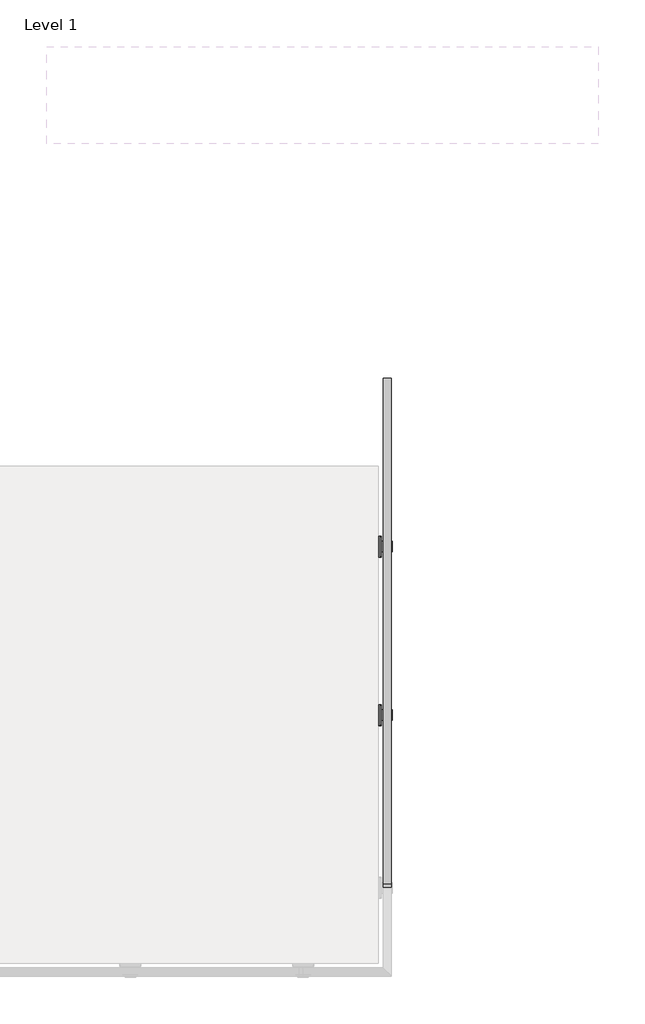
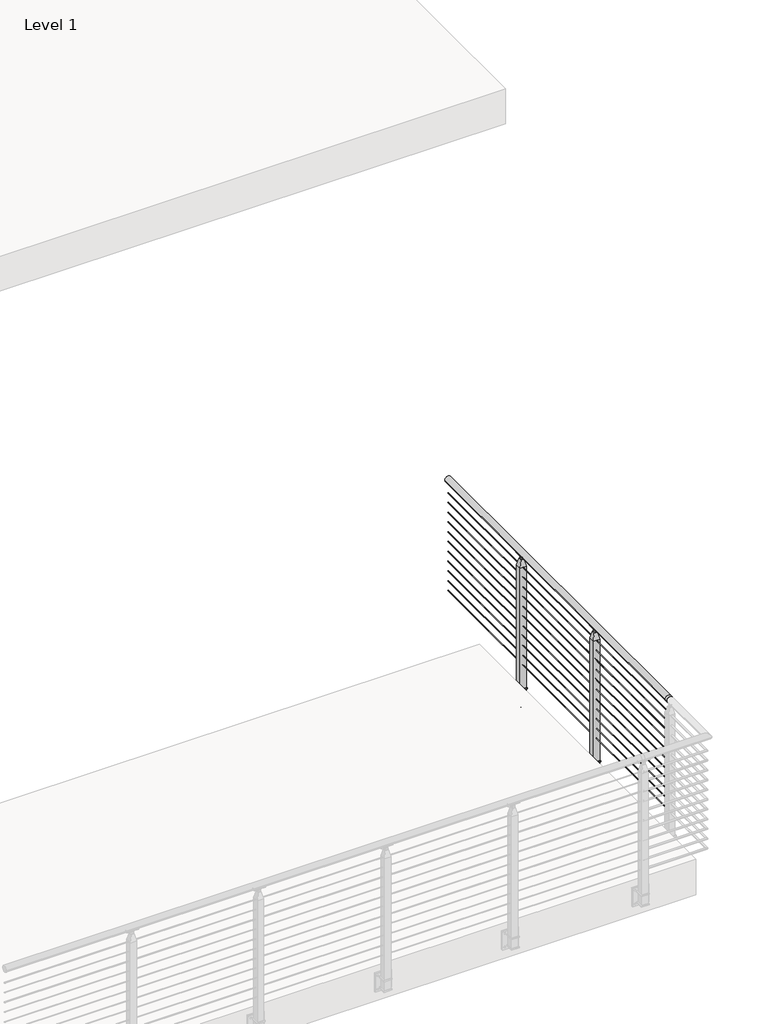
# One storey, part 5 of 26: 1 railing.
"""IFC4 building model written with IfcOpenShell, lengths in millimetres."""

from ifc_helpers import new_model, si_unit, point, frame, frame_2d, origin, place, context, project, spatial, polyline, circle_curve, trimmed, segment, composite_curve, outline, extrude, faceted_brep, element, save
from ifc_brep_helpers import plane_surface, cylinder_surface, advanced_brep

model = new_model("IFC4")

# Units and contexts
model_context = context("Model", 3, world=origin())
ifc_project = project(units=[si_unit("LENGTHUNIT", "METRE", prefix="MILLI")], contexts=[model_context])

# Site, building, storey
site = spatial("IfcSite", under=ifc_project)
building = spatial("IfcBuilding", under=site)
storey = spatial("IfcBuildingStorey", under=building, Name="Level 1", Elevation=0.0)

# Railing
placement = place(None, origin())
element("IfcRailing", 1, ObjectType="VIVA-CUBE-Cable-Fascia Mount-Straight", at=placement, inside=storey, context=model_context, shape_type="SolidModel", body=[
    advanced_brep(
    [(-4853.4752117, -53657.1496325, 1054.1), (-4904.2752117, -53657.1496325, 1054.1), (-4904.2752117, -56705.1496325, 1054.1), (-4853.4752117, -56705.1496325, 1054.1), (-4853.4752117, -56730.9465075, 1054.1), (-4904.2752117, -56730.9465075, 1054.1)],
    [
        (0, 1, circle_curve(frame((-4878.8752117, -53657.1496325, 1054.1), z_axis=(0.0, 1.0, 0.0), x_axis=(-1.0, 0.0, 0.0)), 25.4)),
        (1, 0, circle_curve(frame((-4878.8752117, -53657.1496325, 1054.1), z_axis=(0.0, 1.0, 0.0), x_axis=(-1.0, 0.0, 0.0)), 25.4)),
        (2, 3, circle_curve(frame((-4878.8752117, -56705.1496325, 1054.1), z_axis=(0.0, 1.0, 0.0), x_axis=(-1.0, 0.0, 0.0)), 25.4)),
        (3, 0),
        (1, 2),
        (3, 2, circle_curve(frame((-4878.8752117, -56705.1496325, 1054.1), z_axis=(0.0, 1.0, 0.0), x_axis=(-1.0, 0.0, 0.0)), 25.4)),
        (4, 5, circle_curve(frame((-4878.8752117, -56730.9465075, 1054.1), z_axis=(0.0, -1.0, 0.0), x_axis=(-1.0, 0.0, 0.0)), 25.4)),
        (5, 4, circle_curve(frame((-4878.8752117, -56730.9465075, 1054.1), z_axis=(0.0, -1.0, 0.0), x_axis=(-1.0, 0.0, 0.0)), 25.4)),
        (4, 3),
        (2, 5),
    ],
    [
        plane_surface(frame((-4878.8752117, -53657.1496325, 1079.5), z_axis=(0.0, 1.0, 0.0), x_axis=(0.0, 0.0, 1.0))),
        cylinder_surface(frame((-4878.8752117, -56705.1496325, 1054.1), z_axis=(0.0, -1.0, 0.0), x_axis=(-1.0, 0.0, 0.0)), 25.4),
        plane_surface(frame((-4878.8752117, -56730.9465075, 1079.5), z_axis=(0.0, -1.0, 0.0), x_axis=(0.0, 0.0, 1.0))),
        cylinder_surface(frame((-4878.8752117, -56730.9465075, 1054.1), z_axis=(0.0, -1.0, 0.0), x_axis=(-1.0, 0.0, 0.0)), 25.4),
    ],
    [
        (0, [[1, 2]]),
        (1, [[3, 4, -2, 5]]),
        (1, [[6, -5, -1, -4]]),
        (2, [[7, 8]]),
        (3, [[-7, 9, -3, 10]]),
        (3, [[-8, -10, -6, -9]]),
    ],
),
    extrude(outline(composite_curve([segment(trimmed(circle_curve(frame_2d((937.4124, -4878.8752117)), 2.3876), [point((937.4124, -4881.2628117))], [point((937.4124, -4876.4876117))], False, "CARTESIAN"), True, "CONTINUOUS"), segment(trimmed(circle_curve(frame_2d((937.4124, -4878.8752117)), 2.3876), [point((937.4124, -4876.4876117))], [point((937.4124, -4881.2628117))], False, "CARTESIAN"), True, "CONTINUOUS")], self_intersect=False)), frame((0.0, -56705.1496325, 0.0), z_axis=(0.0, 1.0, 0.0), x_axis=(0.0, 0.0, 1.0)), (0.0, 0.0, 1.0), 3048.0),
    extrude(outline(composite_curve([segment(trimmed(circle_curve(frame_2d((854.8624, -4878.8752117)), 2.3876), [point((854.8624, -4881.2628117))], [point((854.8624, -4876.4876117))], False, "CARTESIAN"), True, "CONTINUOUS"), segment(trimmed(circle_curve(frame_2d((854.8624, -4878.8752117)), 2.3876), [point((854.8624, -4876.4876117))], [point((854.8624, -4881.2628117))], False, "CARTESIAN"), True, "CONTINUOUS")], self_intersect=False)), frame((0.0, -56705.1496325, 0.0), z_axis=(0.0, 1.0, 0.0), x_axis=(0.0, 0.0, 1.0)), (0.0, 0.0, 1.0), 3048.0),
    extrude(outline(composite_curve([segment(trimmed(circle_curve(frame_2d((772.3124, -4878.8752117)), 2.3876), [point((772.3124, -4881.2628117))], [point((772.3124, -4876.4876117))], False, "CARTESIAN"), True, "CONTINUOUS"), segment(trimmed(circle_curve(frame_2d((772.3124, -4878.8752117)), 2.3876), [point((772.3124, -4876.4876117))], [point((772.3124, -4881.2628117))], False, "CARTESIAN"), True, "CONTINUOUS")], self_intersect=False)), frame((0.0, -56705.1496325, 0.0), z_axis=(0.0, 1.0, 0.0), x_axis=(0.0, 0.0, 1.0)), (0.0, 0.0, 1.0), 3048.0),
    extrude(outline(composite_curve([segment(trimmed(circle_curve(frame_2d((689.7624, -4878.8752117)), 2.3876), [point((689.7624, -4881.2628117))], [point((689.7624, -4876.4876117))], False, "CARTESIAN"), True, "CONTINUOUS"), segment(trimmed(circle_curve(frame_2d((689.7624, -4878.8752117)), 2.3876), [point((689.7624, -4876.4876117))], [point((689.7624, -4881.2628117))], False, "CARTESIAN"), True, "CONTINUOUS")], self_intersect=False)), frame((0.0, -56705.1496325, 0.0), z_axis=(0.0, 1.0, 0.0), x_axis=(0.0, 0.0, 1.0)), (0.0, 0.0, 1.0), 3048.0),
    extrude(outline(composite_curve([segment(trimmed(circle_curve(frame_2d((607.2124, -4878.8752117)), 2.3876), [point((607.2124, -4881.2628117))], [point((607.2124, -4876.4876117))], False, "CARTESIAN"), True, "CONTINUOUS"), segment(trimmed(circle_curve(frame_2d((607.2124, -4878.8752117)), 2.3876), [point((607.2124, -4876.4876117))], [point((607.2124, -4881.2628117))], False, "CARTESIAN"), True, "CONTINUOUS")], self_intersect=False)), frame((0.0, -56705.1496325, 0.0), z_axis=(0.0, 1.0, 0.0), x_axis=(0.0, 0.0, 1.0)), (0.0, 0.0, 1.0), 3048.0),
    extrude(outline(composite_curve([segment(trimmed(circle_curve(frame_2d((524.6624, -4878.8752117)), 2.3876), [point((524.6624, -4881.2628117))], [point((524.6624, -4876.4876117))], False, "CARTESIAN"), True, "CONTINUOUS"), segment(trimmed(circle_curve(frame_2d((524.6624, -4878.8752117)), 2.3876), [point((524.6624, -4876.4876117))], [point((524.6624, -4881.2628117))], False, "CARTESIAN"), True, "CONTINUOUS")], self_intersect=False)), frame((0.0, -56705.1496325, 0.0), z_axis=(0.0, 1.0, 0.0), x_axis=(0.0, 0.0, 1.0)), (0.0, 0.0, 1.0), 3048.0),
    extrude(outline(composite_curve([segment(trimmed(circle_curve(frame_2d((442.1124, -4878.8752117)), 2.3876), [point((442.1124, -4881.2628117))], [point((442.1124, -4876.4876117))], False, "CARTESIAN"), True, "CONTINUOUS"), segment(trimmed(circle_curve(frame_2d((442.1124, -4878.8752117)), 2.3876), [point((442.1124, -4876.4876117))], [point((442.1124, -4881.2628117))], False, "CARTESIAN"), True, "CONTINUOUS")], self_intersect=False)), frame((0.0, -56705.1496325, 0.0), z_axis=(0.0, 1.0, 0.0), x_axis=(0.0, 0.0, 1.0)), (0.0, 0.0, 1.0), 3048.0),
    extrude(outline(composite_curve([segment(trimmed(circle_curve(frame_2d((359.5624, -4878.8752117)), 2.3876), [point((359.5624, -4881.2628117))], [point((359.5624, -4876.4876117))], False, "CARTESIAN"), True, "CONTINUOUS"), segment(trimmed(circle_curve(frame_2d((359.5624, -4878.8752117)), 2.3876), [point((359.5624, -4876.4876117))], [point((359.5624, -4881.2628117))], False, "CARTESIAN"), True, "CONTINUOUS")], self_intersect=False)), frame((0.0, -56705.1496325, 0.0), z_axis=(0.0, 1.0, 0.0), x_axis=(0.0, 0.0, 1.0)), (0.0, 0.0, 1.0), 3048.0),
    extrude(outline(composite_curve([segment(trimmed(circle_curve(frame_2d((277.0124, -4878.8752117)), 2.3876), [point((277.0124, -4881.2628117))], [point((277.0124, -4876.4876117))], False, "CARTESIAN"), True, "CONTINUOUS"), segment(trimmed(circle_curve(frame_2d((277.0124, -4878.8752117)), 2.3876), [point((277.0124, -4876.4876117))], [point((277.0124, -4881.2628117))], False, "CARTESIAN"), True, "CONTINUOUS")], self_intersect=False)), frame((0.0, -56705.1496325, 0.0), z_axis=(0.0, 1.0, 0.0), x_axis=(0.0, 0.0, 1.0)), (0.0, 0.0, 1.0), 3048.0),
    extrude(outline(composite_curve([segment(trimmed(circle_curve(frame_2d((194.4624, -4878.8752117)), 2.3876), [point((194.4624, -4881.2628117))], [point((194.4624, -4876.4876117))], False, "CARTESIAN"), True, "CONTINUOUS"), segment(trimmed(circle_curve(frame_2d((194.4624, -4878.8752117)), 2.3876), [point((194.4624, -4876.4876117))], [point((194.4624, -4881.2628117))], False, "CARTESIAN"), True, "CONTINUOUS")], self_intersect=False)), frame((0.0, -56705.1496325, 0.0), z_axis=(0.0, 1.0, 0.0), x_axis=(0.0, 0.0, 1.0)), (0.0, 0.0, 1.0), 3048.0),
    extrude(outline(composite_curve([segment(trimmed(circle_curve(frame_2d((111.9124, -4878.8752117)), 2.3876), [point((111.9124, -4881.2628117))], [point((111.9124, -4876.4876117))], False, "CARTESIAN"), True, "CONTINUOUS"), segment(trimmed(circle_curve(frame_2d((111.9124, -4878.8752117)), 2.3876), [point((111.9124, -4876.4876117))], [point((111.9124, -4881.2628117))], False, "CARTESIAN"), True, "CONTINUOUS")], self_intersect=False)), frame((0.0, -56705.1496325, 0.0), z_axis=(0.0, 1.0, 0.0), x_axis=(0.0, 0.0, 1.0)), (0.0, 0.0, 1.0), 3048.0),
    extrude(outline(polyline([(-4933.3882474, -54609.2527575), (-4923.4060474, -54609.2527575), (-4923.4060474, -54736.2527575), (-4933.3882474, -54736.2527575), (-4933.3882474, -54609.2527575)])), frame((0.0, 0.0, -209.55), z_axis=(0.0, 0.0, 1.0), x_axis=(1.0, 0.0, 0.0)), (0.0, 0.0, 1.0), 152.4),
    extrude(outline(composite_curve([segment(trimmed(circle_curve(frame_2d((-54611.7927575, -59.69)), 2.54), [point((-54611.7927575, -57.15))], [point((-54609.2527575, -59.69))], False, "CARTESIAN"), True, "CONTINUOUS"), segment(polyline([(-54609.2527575, -59.69), (-54609.2527575, -207.01)]), True, "CONTINUOUS"), segment(trimmed(circle_curve(frame_2d((-54611.7927575, -207.01)), 2.54), [point((-54609.2527575, -207.01))], [point((-54611.7927575, -209.55))], False, "CARTESIAN"), True, "CONTINUOUS"), segment(polyline([(-54611.7927575, -209.55), (-54733.7127575, -209.55)]), True, "CONTINUOUS"), segment(trimmed(circle_curve(frame_2d((-54733.7127575, -207.01)), 2.54), [point((-54733.7127575, -209.55))], [point((-54736.2527575, -207.01))], False, "CARTESIAN"), True, "CONTINUOUS"), segment(polyline([(-54736.2527575, -207.01), (-54736.2527575, -59.69)]), True, "CONTINUOUS"), segment(trimmed(circle_curve(frame_2d((-54733.7127575, -59.69)), 2.54), [point((-54736.2527575, -59.69))], [point((-54733.7127575, -57.15))], False, "CARTESIAN"), True, "CONTINUOUS"), segment(polyline([(-54733.7127575, -57.15), (-54611.7927575, -57.15)]), True, "CONTINUOUS")], self_intersect=False), holes=[composite_curve([segment(trimmed(circle_curve(frame_2d((-54717.2027575, -76.2)), 5.55625), [point((-54711.6465075, -76.2))], [point((-54722.7590075, -76.2))], True, "CARTESIAN"), True, "CONTINUOUS"), segment(trimmed(circle_curve(frame_2d((-54717.2027575, -76.2)), 5.55625), [point((-54722.7590075, -76.2))], [point((-54711.6465075, -76.2))], True, "CARTESIAN"), True, "CONTINUOUS")], self_intersect=False), composite_curve([segment(trimmed(circle_curve(frame_2d((-54628.3027575, -76.2)), 5.55625), [point((-54622.7465075, -76.2))], [point((-54633.8590075, -76.2))], True, "CARTESIAN"), True, "CONTINUOUS"), segment(trimmed(circle_curve(frame_2d((-54628.3027575, -76.2)), 5.55625), [point((-54633.8590075, -76.2))], [point((-54622.7465075, -76.2))], True, "CARTESIAN"), True, "CONTINUOUS")], self_intersect=False), composite_curve([segment(trimmed(circle_curve(frame_2d((-54628.3027575, -190.5)), 5.55625), [point((-54622.7465075, -190.5))], [point((-54633.8590075, -190.5))], True, "CARTESIAN"), True, "CONTINUOUS"), segment(trimmed(circle_curve(frame_2d((-54628.3027575, -190.5)), 5.55625), [point((-54633.8590075, -190.5))], [point((-54622.7465075, -190.5))], True, "CARTESIAN"), True, "CONTINUOUS")], self_intersect=False), composite_curve([segment(trimmed(circle_curve(frame_2d((-54717.2027575, -190.5)), 5.55625), [point((-54711.6465075, -190.5))], [point((-54722.7590075, -190.5))], True, "CARTESIAN"), True, "CONTINUOUS"), segment(trimmed(circle_curve(frame_2d((-54717.2027575, -190.5)), 5.55625), [point((-54722.7590075, -190.5))], [point((-54711.6465075, -190.5))], True, "CARTESIAN"), True, "CONTINUOUS")], self_intersect=False)]), frame((-4923.4060474, 0.0, 0.0), z_axis=(1.0, 0.0, 0.0), x_axis=(0.0, 1.0, 0.0)), (0.0, 0.0, 1.0), 9.9822),
    extrude(outline(polyline([(-4923.4060474, -54704.5027575), (-4923.4060474, -54641.0027575), (-4847.1252117, -54641.0027575), (-4847.1252117, -54704.5027575), (-4923.4060474, -54704.5027575)])), frame((0.0, 0.0, -182.5625), z_axis=(0.0, 0.0, 1.0), x_axis=(1.0, 0.0, 0.0)), (0.0, 0.0, 1.0), 9.5123),
    extrude(outline(polyline([(-4923.4060474, -54704.5027575), (-4923.4060474, -54641.0027575), (-4847.1252117, -54641.0027575), (-4847.1252117, -54704.5027575), (-4923.4060474, -54704.5027575)])), frame((0.0, 0.0, -93.6625), z_axis=(0.0, 0.0, 1.0), x_axis=(1.0, 0.0, 0.0)), (0.0, 0.0, 1.0), 9.525),
    faceted_brep([(-4891.5752117, -54660.0527575, 997.2902749), (-4891.5752117, -54685.4527575, 997.2902749), (-4882.8439617, -54685.4527575, 997.2902749), (-4882.8439617, -54660.0527575, 997.2902749), (-4866.1752117, -54685.4527575, 997.2902749), (-4866.1752117, -54660.0527575, 997.2902749), (-4874.9064617, -54660.0527575, 997.2902749), (-4874.9064617, -54685.4527575, 997.2902749), (-4904.2752117, -54647.3527575, 941.1347854), (-4853.4752117, -54647.3527575, 941.1347854), (-4904.2752117, -54698.1527575, 941.1347854), (-4853.4752117, -54698.1527575, 941.1347854), (-4904.2752117, -54647.3527575, -173.0502), (-4853.4752117, -54647.3527575, -173.0502), (-4853.4752117, -54698.1527575, -173.0502), (-4904.2752117, -54698.1527575, -173.0502), (-4874.9064617, -54685.4527575, 1009.3306013), (-4874.9064617, -54660.0527575, 1009.3306013), (-4882.8439617, -54660.0527575, 1009.3306013), (-4882.8439617, -54685.4527575, 1009.3306013)], [[[0, 1, 2, 3]], [[4, 5, 6, 7]], [[8, 0, 3, 6, 5, 9]], [[1, 0, 8, 10]], [[1, 10, 11, 4, 7, 2]], [[5, 4, 11, 9]], [[12, 13, 14, 15]], [[12, 15, 10, 8]], [[15, 14, 11, 10]], [[14, 13, 9, 11]], [[13, 12, 8, 9]], [[16, 17, 18, 19]], [[17, 16, 7, 6]], [[18, 17, 6, 3]], [[19, 18, 3, 2]], [[16, 19, 2, 7]]]),
    extrude(outline(composite_curve([segment(trimmed(circle_curve(frame_2d((1054.1433184, -4878.9719401)), 25.4345159), [point((1032.0284941, -4866.4081372))], [point((1031.9335733, -4891.3671739))], True, "CARTESIAN"), True, "CONTINUOUS"), segment(trimmed(circle_curve(frame_2d((1029.4310885, -4892.611827)), 2.7949225), [point((1031.9335733, -4891.3671739))], [point((1027.0585031, -4894.089132))], False, "CARTESIAN"), True, "CONTINUOUS"), segment(trimmed(circle_curve(frame_2d((1054.905945, -4878.838477)), 31.75), [point((1027.0585031, -4894.089132))], [point((1027.6392616, -4862.5722398))], False, "CARTESIAN"), True, "CONTINUOUS"), segment(trimmed(circle_curve(frame_2d((1029.5101807, -4864.8605795)), 2.9558141), [point((1027.6392616, -4862.5722398))], [point((1032.0284941, -4866.4081372))], False, "CARTESIAN"), True, "CONTINUOUS")], self_intersect=False)), frame((0.0, -54717.9901575, 0.0), z_axis=(0.0, 1.0, 0.0), x_axis=(0.0, 0.0, 1.0)), (0.0, 0.0, 1.0), 90.4748),
    extrude(outline(composite_curve([segment(trimmed(circle_curve(frame_2d((-54645.6848426, 1009.0006022)), 14.3679149), [point((-54645.6848426, 1023.3685171))], [point((-54660.0527575, 1009.0006022))], True, "CARTESIAN"), True, "CONTINUOUS"), segment(trimmed(circle_curve(frame_2d((-54672.7527575, 1009.0006022)), 12.7), [point((-54660.0527575, 1009.0006022))], [point((-54685.4527575, 1009.0006022))], False, "CARTESIAN"), True, "CONTINUOUS"), segment(trimmed(circle_curve(frame_2d((-54699.8206723, 1009.0006022)), 14.3679149), [point((-54685.4527575, 1009.0006022))], [point((-54699.8206723, 1023.3685171))], True, "CARTESIAN"), True, "CONTINUOUS"), segment(polyline([(-54699.8206723, 1023.3685171), (-54645.6848426, 1023.3685171)]), True, "CONTINUOUS")], self_intersect=False)), frame((-4881.4152117, 0.0, 0.0), z_axis=(1.0, 0.0, 0.0), x_axis=(0.0, 1.0, 0.0)), (0.0, 0.0, 1.0), 5.08),
    extrude(outline(polyline([(-4933.3882474, -55625.2527575), (-4923.4060474, -55625.2527575), (-4923.4060474, -55752.2527575), (-4933.3882474, -55752.2527575), (-4933.3882474, -55625.2527575)])), frame((0.0, 0.0, -209.55), z_axis=(0.0, 0.0, 1.0), x_axis=(1.0, 0.0, 0.0)), (0.0, 0.0, 1.0), 152.4),
    extrude(outline(composite_curve([segment(trimmed(circle_curve(frame_2d((-55627.7927575, -59.69)), 2.54), [point((-55627.7927575, -57.15))], [point((-55625.2527575, -59.69))], False, "CARTESIAN"), True, "CONTINUOUS"), segment(polyline([(-55625.2527575, -59.69), (-55625.2527575, -207.01)]), True, "CONTINUOUS"), segment(trimmed(circle_curve(frame_2d((-55627.7927575, -207.01)), 2.54), [point((-55625.2527575, -207.01))], [point((-55627.7927575, -209.55))], False, "CARTESIAN"), True, "CONTINUOUS"), segment(polyline([(-55627.7927575, -209.55), (-55749.7127575, -209.55)]), True, "CONTINUOUS"), segment(trimmed(circle_curve(frame_2d((-55749.7127575, -207.01)), 2.54), [point((-55749.7127575, -209.55))], [point((-55752.2527575, -207.01))], False, "CARTESIAN"), True, "CONTINUOUS"), segment(polyline([(-55752.2527575, -207.01), (-55752.2527575, -59.69)]), True, "CONTINUOUS"), segment(trimmed(circle_curve(frame_2d((-55749.7127575, -59.69)), 2.54), [point((-55752.2527575, -59.69))], [point((-55749.7127575, -57.15))], False, "CARTESIAN"), True, "CONTINUOUS"), segment(polyline([(-55749.7127575, -57.15), (-55627.7927575, -57.15)]), True, "CONTINUOUS")], self_intersect=False), holes=[composite_curve([segment(trimmed(circle_curve(frame_2d((-55733.2027575, -76.2)), 5.55625), [point((-55727.6465075, -76.2))], [point((-55738.7590075, -76.2))], True, "CARTESIAN"), True, "CONTINUOUS"), segment(trimmed(circle_curve(frame_2d((-55733.2027575, -76.2)), 5.55625), [point((-55738.7590075, -76.2))], [point((-55727.6465075, -76.2))], True, "CARTESIAN"), True, "CONTINUOUS")], self_intersect=False), composite_curve([segment(trimmed(circle_curve(frame_2d((-55644.3027575, -76.2)), 5.55625), [point((-55638.7465075, -76.2))], [point((-55649.8590075, -76.2))], True, "CARTESIAN"), True, "CONTINUOUS"), segment(trimmed(circle_curve(frame_2d((-55644.3027575, -76.2)), 5.55625), [point((-55649.8590075, -76.2))], [point((-55638.7465075, -76.2))], True, "CARTESIAN"), True, "CONTINUOUS")], self_intersect=False), composite_curve([segment(trimmed(circle_curve(frame_2d((-55644.3027575, -190.5)), 5.55625), [point((-55638.7465075, -190.5))], [point((-55649.8590075, -190.5))], True, "CARTESIAN"), True, "CONTINUOUS"), segment(trimmed(circle_curve(frame_2d((-55644.3027575, -190.5)), 5.55625), [point((-55649.8590075, -190.5))], [point((-55638.7465075, -190.5))], True, "CARTESIAN"), True, "CONTINUOUS")], self_intersect=False), composite_curve([segment(trimmed(circle_curve(frame_2d((-55733.2027575, -190.5)), 5.55625), [point((-55727.6465075, -190.5))], [point((-55738.7590075, -190.5))], True, "CARTESIAN"), True, "CONTINUOUS"), segment(trimmed(circle_curve(frame_2d((-55733.2027575, -190.5)), 5.55625), [point((-55738.7590075, -190.5))], [point((-55727.6465075, -190.5))], True, "CARTESIAN"), True, "CONTINUOUS")], self_intersect=False)]), frame((-4923.4060474, 0.0, 0.0), z_axis=(1.0, 0.0, 0.0), x_axis=(0.0, 1.0, 0.0)), (0.0, 0.0, 1.0), 9.9822),
    extrude(outline(polyline([(-4923.4060474, -55720.5027575), (-4923.4060474, -55657.0027575), (-4847.1252117, -55657.0027575), (-4847.1252117, -55720.5027575), (-4923.4060474, -55720.5027575)])), frame((0.0, 0.0, -182.5625), z_axis=(0.0, 0.0, 1.0), x_axis=(1.0, 0.0, 0.0)), (0.0, 0.0, 1.0), 9.5123),
    extrude(outline(polyline([(-4923.4060474, -55720.5027575), (-4923.4060474, -55657.0027575), (-4847.1252117, -55657.0027575), (-4847.1252117, -55720.5027575), (-4923.4060474, -55720.5027575)])), frame((0.0, 0.0, -93.6625), z_axis=(0.0, 0.0, 1.0), x_axis=(1.0, 0.0, 0.0)), (0.0, 0.0, 1.0), 9.525),
    faceted_brep([(-4891.5752117, -55676.0527575, 997.2902749), (-4891.5752117, -55701.4527575, 997.2902749), (-4882.8439617, -55701.4527575, 997.2902749), (-4882.8439617, -55676.0527575, 997.2902749), (-4866.1752117, -55701.4527575, 997.2902749), (-4866.1752117, -55676.0527575, 997.2902749), (-4874.9064617, -55676.0527575, 997.2902749), (-4874.9064617, -55701.4527575, 997.2902749), (-4904.2752117, -55663.3527575, 941.1347854), (-4853.4752117, -55663.3527575, 941.1347854), (-4904.2752117, -55714.1527575, 941.1347854), (-4853.4752117, -55714.1527575, 941.1347854), (-4904.2752117, -55663.3527575, -173.0502), (-4853.4752117, -55663.3527575, -173.0502), (-4853.4752117, -55714.1527575, -173.0502), (-4904.2752117, -55714.1527575, -173.0502), (-4874.9064617, -55701.4527575, 1009.3306013), (-4874.9064617, -55676.0527575, 1009.3306013), (-4882.8439617, -55676.0527575, 1009.3306013), (-4882.8439617, -55701.4527575, 1009.3306013)], [[[0, 1, 2, 3]], [[4, 5, 6, 7]], [[8, 0, 3, 6, 5, 9]], [[1, 0, 8, 10]], [[1, 10, 11, 4, 7, 2]], [[5, 4, 11, 9]], [[12, 13, 14, 15]], [[12, 15, 10, 8]], [[15, 14, 11, 10]], [[14, 13, 9, 11]], [[13, 12, 8, 9]], [[16, 17, 18, 19]], [[17, 16, 7, 6]], [[18, 17, 6, 3]], [[19, 18, 3, 2]], [[16, 19, 2, 7]]]),
    extrude(outline(composite_curve([segment(trimmed(circle_curve(frame_2d((1054.1433184, -4878.9719401)), 25.4345159), [point((1032.0284941, -4866.4081372))], [point((1031.9335733, -4891.3671739))], True, "CARTESIAN"), True, "CONTINUOUS"), segment(trimmed(circle_curve(frame_2d((1029.4310885, -4892.611827)), 2.7949225), [point((1031.9335733, -4891.3671739))], [point((1027.0585031, -4894.089132))], False, "CARTESIAN"), True, "CONTINUOUS"), segment(trimmed(circle_curve(frame_2d((1054.905945, -4878.838477)), 31.75), [point((1027.0585031, -4894.089132))], [point((1027.6392616, -4862.5722398))], False, "CARTESIAN"), True, "CONTINUOUS"), segment(trimmed(circle_curve(frame_2d((1029.5101807, -4864.8605795)), 2.9558141), [point((1027.6392616, -4862.5722398))], [point((1032.0284941, -4866.4081372))], False, "CARTESIAN"), True, "CONTINUOUS")], self_intersect=False)), frame((0.0, -55733.9901575, 0.0), z_axis=(0.0, 1.0, 0.0), x_axis=(0.0, 0.0, 1.0)), (0.0, 0.0, 1.0), 90.4748),
    extrude(outline(composite_curve([segment(trimmed(circle_curve(frame_2d((-55661.6848426, 1009.0006022)), 14.3679149), [point((-55661.6848426, 1023.3685171))], [point((-55676.0527575, 1009.0006022))], True, "CARTESIAN"), True, "CONTINUOUS"), segment(trimmed(circle_curve(frame_2d((-55688.7527575, 1009.0006022)), 12.7), [point((-55676.0527575, 1009.0006022))], [point((-55701.4527575, 1009.0006022))], False, "CARTESIAN"), True, "CONTINUOUS"), segment(trimmed(circle_curve(frame_2d((-55715.8206723, 1009.0006022)), 14.3679149), [point((-55701.4527575, 1009.0006022))], [point((-55715.8206723, 1023.3685171))], True, "CARTESIAN"), True, "CONTINUOUS"), segment(polyline([(-55715.8206723, 1023.3685171), (-55661.6848426, 1023.3685171)]), True, "CONTINUOUS")], self_intersect=False)), frame((-4881.4152117, 0.0, 0.0), z_axis=(1.0, 0.0, 0.0), x_axis=(0.0, 1.0, 0.0)), (0.0, 0.0, 1.0), 5.08),
])

save(model, "model.ifc")
